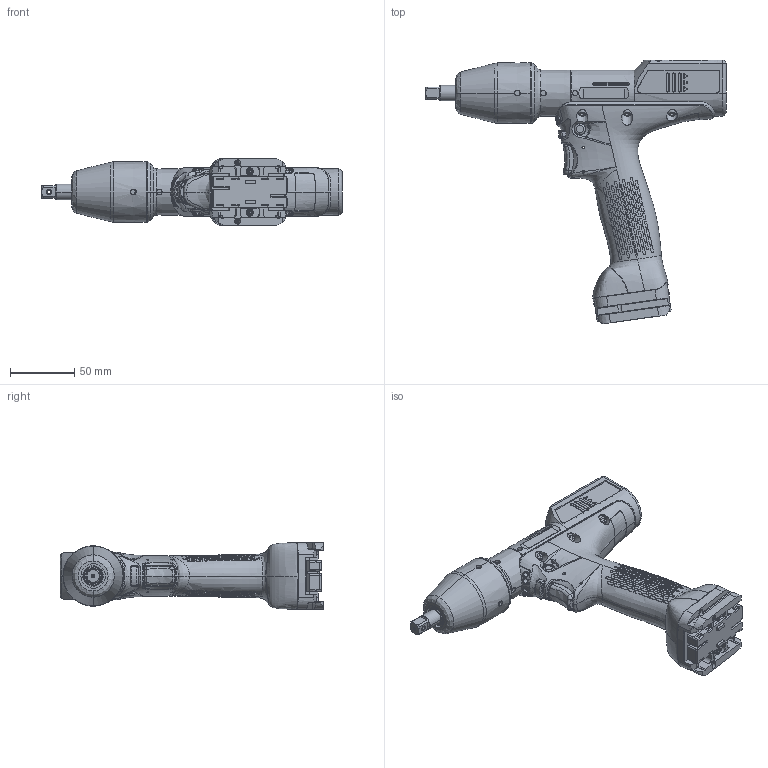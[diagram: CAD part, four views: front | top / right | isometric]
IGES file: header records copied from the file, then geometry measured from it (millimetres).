
Start section:  PTC IGES file: 6151660250.igs
Global section: file name: 6151660250.igs; native system: Creo Parametric by PTC Inc.; preprocessor: 2017300; author: greextsd; organization: Unknown; date: 20180807.134510; units: millimetre
Bounding box: 233.87 x 205.54 x 52 mm (x, y, z)
Volume: 330328.5 mm3; surface area: 121775.5 mm2
Topology: 9 solids, 9 shells, 3198 faces, 8447 edges, 5398 vertices
Faces by surface type: bspline 1674, revolution 1502, extrusion 22
